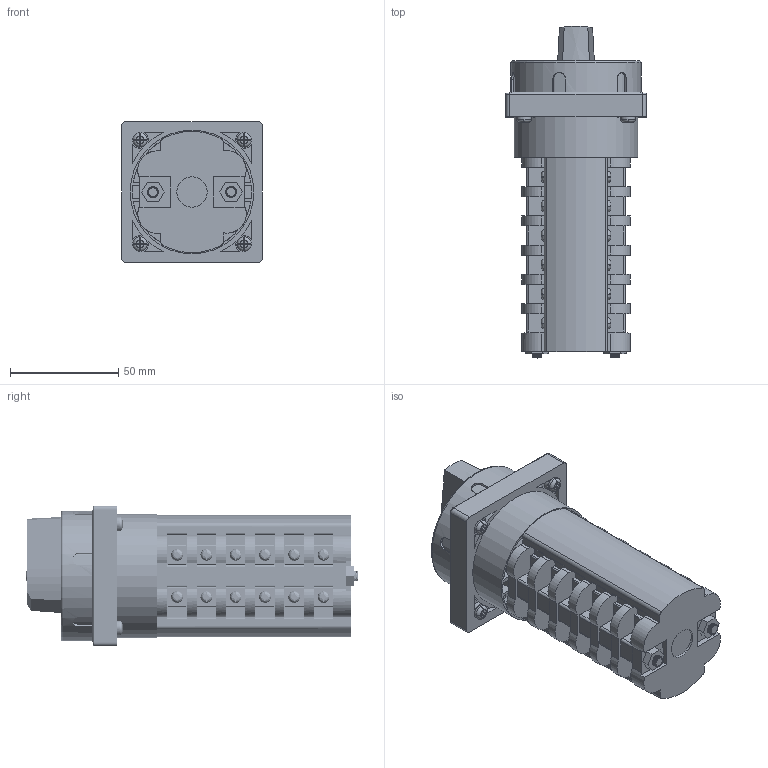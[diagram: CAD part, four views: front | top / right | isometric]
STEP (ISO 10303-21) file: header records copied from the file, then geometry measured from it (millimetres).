
FILE_DESCRIPTION(/* description */ (''),/* implementation_level */ '2;1');
FILE_NAME(/* name */ '4G16,25_S6_6_korpusow.stp',/* time_stamp */ '2021-07-21T09:48:47+02:00',/* author */ (''),/* organization */ (''),/* preprocessor_version */ 'ST-DEVELOPER v18.1',/* originating_system */ 'SIEMENS PLM Software NX 1965',/* authorisation */ '');
FILE_SCHEMA (('AUTOMOTIVE_DESIGN { 1 0 10303 214 3 1 1 1 }'));
Products named in the file (1): 4G16,25_S6_6_korpusow_stp
Bounding box: 65 x 153.1 x 65 mm (x, y, z)
Volume: 288070.8 mm3; surface area: 65808.6 mm2
Topology: 2 solids, 11 shells, 1554 faces, 4348 edges, 2858 vertices
Faces by surface type: plane 903, cylinder 425, bspline 151, cone 54, torus 15, extrusion 6
Full cylindrical faces by diameter (mm): 2.9 x7, 3.1 x1, 4.3 x4, 5 x2, 5.4 x25, 5.6 x1, 6 x1, 6.7 x4, 7.2 x4, 8 x1, 14 x1, 55.8 x1, 57 x1, 58 x1, 60 x1
Entity records: 143827 total; most frequent: CARTESIAN_POINT 105844, ORIENTED_EDGE 8332, DIRECTION 7085, EDGE_CURVE 4166, VERTEX_POINT 2771, AXIS2_PLACEMENT_3D 2528, VECTOR 2029, LINE 2023
